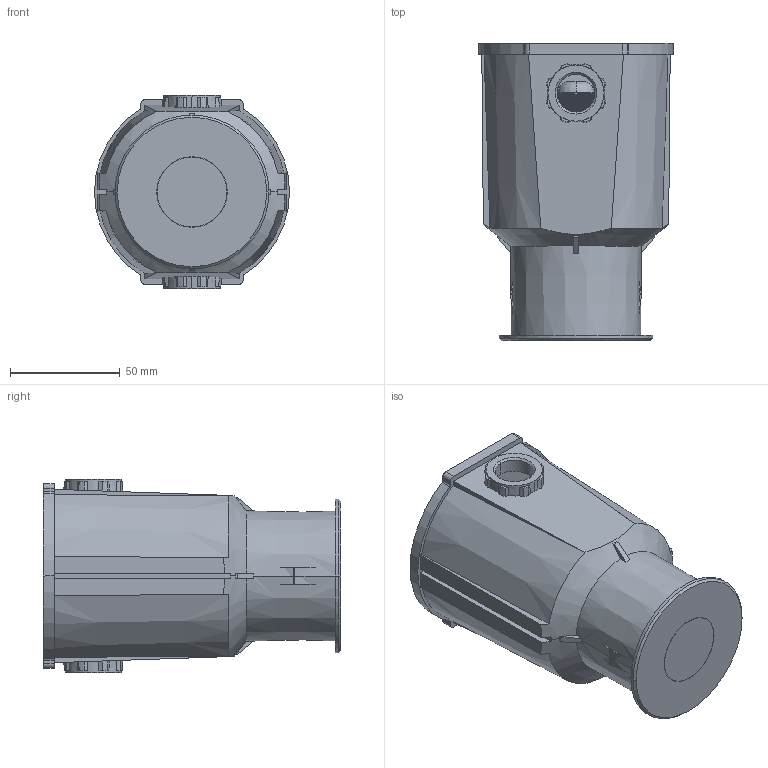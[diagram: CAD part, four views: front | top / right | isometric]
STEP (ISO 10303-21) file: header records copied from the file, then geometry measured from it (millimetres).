
FILE_DESCRIPTION((''),'2;1');
FILE_NAME('R2IR0125_A_065__ASM','2024-11-23T10:06:58',('C029'),(''),'CREO PARAMETRIC BY PTC INC, 2021063','CREO PARAMETRIC BY PTC INC, 2021063','');
FILE_SCHEMA(('CONFIG_CONTROL_DESIGN'));
Products named in the file (18): 2I__2; HOUGAI_2; MIANGAI_2; KAHUANG_2; MUZUHE_2; PRT0001_2; 2I-0_2; 0-RING_2; 2I-1_2; YATAO_2; BOLI-0_2; R7_2; 2XA-_____2; 2XA-B____2; 4A_____ASM_2_ASM; ASM0001_ASM_2_ASM; PG9; R2IR0125_A_065__ASM
Assembly tree (17 placements, depth 4):
  R2IR0125_A_065__ASM
    ASM0001_ASM_2_ASM
      2I__2
      HOUGAI_2
      MIANGAI_2
      KAHUANG_2
      MUZUHE_2
      PRT0001_2
      2I-0_2
      0-RING_2
      2I-1_2
      YATAO_2
      BOLI-0_2
      R7_2
      4A_____ASM_2_ASM
        2XA-_____2
        2XA-B____2
    PG9
Bounding box: 88.7 x 135.2 x 88 mm (x, y, z)
Volume: 228134.7 mm3; surface area: 156020.6 mm2
Topology: 15 solids, 16 shells, 2260 faces, 6462 edges, 4319 vertices
Faces by surface type: plane 1693, cylinder 415, cone 110, bspline 24, torus 10, revolution 8
Entity records: 77149 total; most frequent: CARTESIAN_POINT 18260, ORIENTED_EDGE 12924, DIRECTION 11181, EDGE_CURVE 6462, VECTOR 4631, LINE 4631, VERTEX_POINT 4319, AXIS2_PLACEMENT_3D 3271
